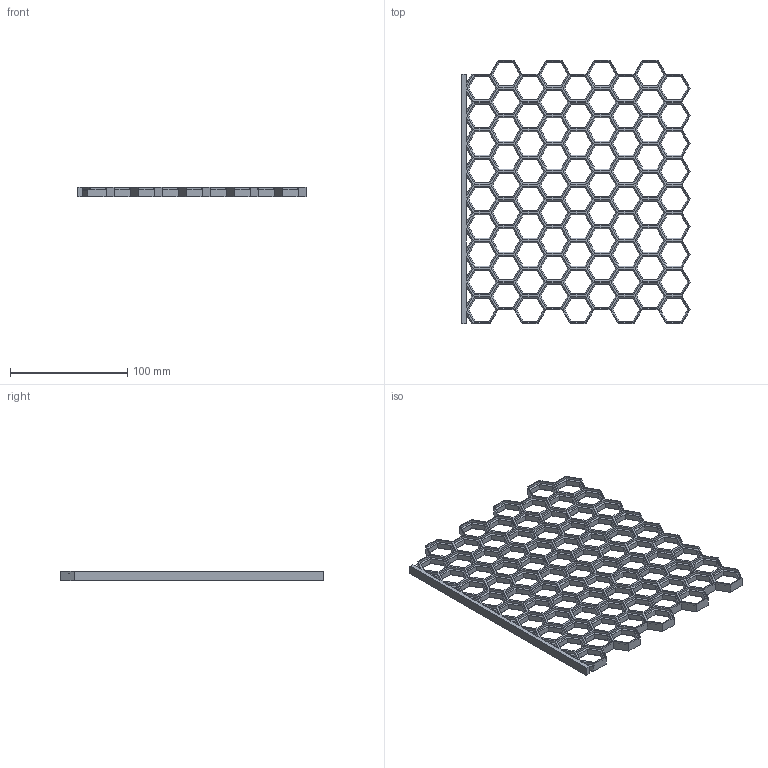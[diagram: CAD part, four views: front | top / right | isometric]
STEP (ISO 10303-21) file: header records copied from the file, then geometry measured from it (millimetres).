
FILE_DESCRIPTION(/* description */ (''),/* implementation_level */ '2;1');
FILE_NAME(/* name */ 'wall-honeycomb sortierseytem v1.step',/* time_stamp */ '2023-07-05T04:00:46+02:00',/* author */ (''),/* organization */ (''),/* preprocessor_version */ 'ST-DEVELOPER v19.2',/* originating_system */ 'Autodesk Translation Framework v12.6.0.85',/* authorisation */ '');
FILE_SCHEMA (('AUTOMOTIVE_DESIGN { 1 0 10303 214 3 1 1 }'));
Length unit declared in the file: millimetre
Products named in the file (1): wall-honeycomb sortierseytem
Bounding box: 194.36 x 224.2 x 8 mm (x, y, z)
Volume: 81747.6 mm3; surface area: 75911.5 mm2
Topology: 1 solids, 1 shells, 2083 faces, 4761 edges, 2680 vertices
Faces by surface type: plane 2083
Entity records: 55755 total; most frequent: CARTESIAN_POINT 9525, ORIENTED_EDGE 9522, DIRECTION 8929, LINE 4761, VECTOR 4761, EDGE_CURVE 4761, VERTEX_POINT 2680, EDGE_LOOP 2261
